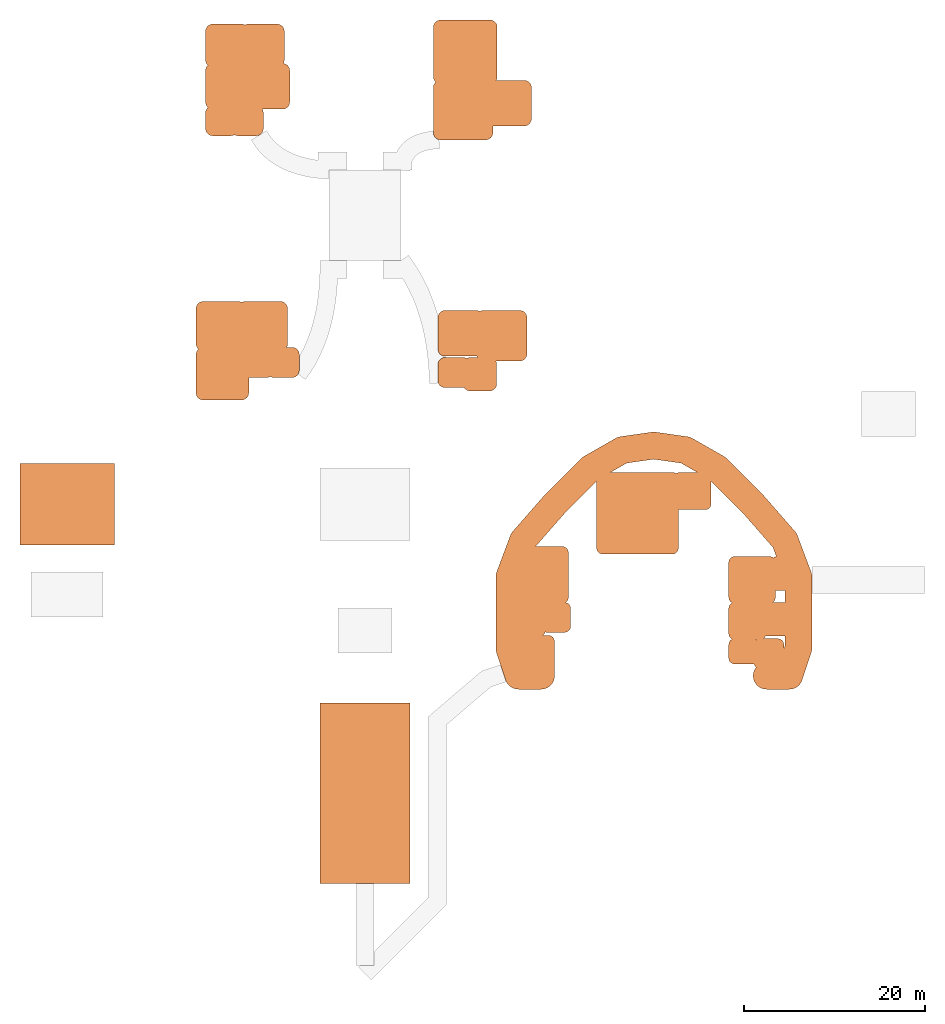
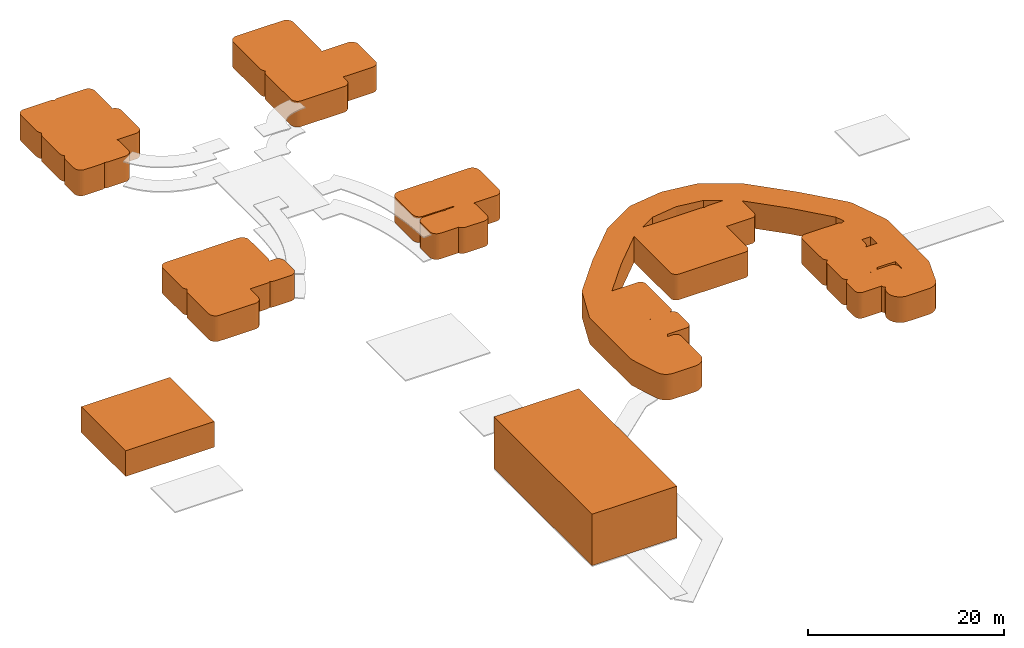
# One storey, part 2 of 2: 7 proxies.
"""IFC2X3 building model written with IfcOpenShell, lengths in millimetres."""

from ifc_helpers import new_model, entity, si_unit, converted_unit, direction, frame, frame_2d, origin, place, context, subcontext, project, spatial, polyline, rectangle, outline, extrude, type_object, element, save


model = new_model("IFC2X3")

# Units and contexts
model_context = context("Model", 3, precision=0.01, world=origin(), true_north=direction((0.0, 1.0)))
body_context = subcontext(model_context, "Body", "Model", "MODEL_VIEW")
ifc_project = project(units=[si_unit("LENGTHUNIT", "METRE", prefix="MILLI"), si_unit("AREAUNIT", "SQUARE_METRE"), si_unit("VOLUMEUNIT", "CUBIC_METRE"), converted_unit("PLANEANGLEUNIT", "DEGREE", entity("IfcPlaneAngleMeasure", 0.017453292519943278), si_unit("PLANEANGLEUNIT", "RADIAN"), dimensions=[0, 0, 0, 0, 0, 0, 0])], contexts=[model_context])

# Site, building, storey
site_placement = place(None, origin())
site = spatial("IfcSite", under=ifc_project, at=site_placement, Name="Default", CompositionType="ELEMENT")
building_placement = place(site_placement, origin())
building = spatial("IfcBuilding", under=site, at=building_placement, CompositionType="ELEMENT")
storey_placement = place(building_placement, origin())
storey = spatial("IfcBuildingStorey", under=building, at=storey_placement, Name="Nível 1", CompositionType="ELEMENT", Elevation=0.0)

# Proxies
building_element_proxy_type_1 = type_object("IfcBuildingElementProxyType", Name="MASS-ADMIN_ACOLHIMENTO", PredefinedType="NOTDEFINED")
proxy_1_placement = place(storey_placement, origin())
element("IfcBuildingElementProxy", 1, at=proxy_1_placement, inside=storey, type_object=building_element_proxy_type_1, Name="MASS-ADMIN_ACOLHIMENTO", context=body_context, shape_type="SweptSolid", body=[
    extrude(rectangle(XDim=10000.0, YDim=20000.0, at=frame_2d((0.0, -4.547473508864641e-12), x_axis=(1.0, 0.0))), frame((0.0, -42000.0, 0.0)), (0.0, 0.0, 1.0), 6400.0),
])
building_element_proxy_type_2 = type_object("IfcBuildingElementProxyType", Name="MASS-CHILD_SECTOR", PredefinedType="NOTDEFINED")
proxy_2_placement = place(storey_placement, origin())
element("IfcBuildingElementProxy", 2, at=proxy_2_placement, inside=storey, type_object=building_element_proxy_type_2, Name="MASS-CHILD_SECTOR", context=body_context, shape_type="SweptSolid", body=[
    extrude(rectangle(XDim=9048.469228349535, YDim=10441.620172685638, at=frame_2d((9.094947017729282e-13, 0.0), x_axis=(1.0, 0.0))), frame((-33000.0, -10000.0, 0.0), z_axis=(0.0, 0.0, 1.0), x_axis=(0.0, 1.0, 0.0)), (0.0, 0.0, 1.0), 3200.0),
])
building_element_proxy_type_3 = type_object("IfcBuildingElementProxyType", Name="MASS-RES_PAV_A", PredefinedType="NOTDEFINED")
proxy_3_placement = place(storey_placement, origin())
element("IfcBuildingElementProxy", 3, at=proxy_3_placement, inside=storey, type_object=building_element_proxy_type_3, Name="MASS-RES_PAV_A", context=body_context, shape_type="SweptSolid", body=[
    extrude(outline(polyline([(3269.8540083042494, -4179.506292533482), (5019.85400830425, -4179.506292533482), (5175.92626591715, -4164.134516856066), (5326.000754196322, -4118.60991854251), (5464.310194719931, -4044.681982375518), (5585.539433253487, -3945.1917174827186), (5685.029698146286, -3823.9624789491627), (5758.9576343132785, -3685.653038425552), (5804.482232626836, -3535.5785501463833), (5819.85400830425, -3379.506292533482), (5819.85400830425, -1379.5062925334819), (5804.482232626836, -1223.4340349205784), (5758.9576343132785, -1073.3595466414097), (5708.792024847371, -979.5062925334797), (5758.9576343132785, -885.6530384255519), (5804.482232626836, -735.5785501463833), (5819.85400830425, -579.5062925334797), (5819.85400830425, 1420.4937074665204), (5804.482232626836, 1576.5659650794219), (5758.9576343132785, 1726.6404533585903), (5685.029698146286, 1864.9498938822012), (5585.539433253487, 1986.179132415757), (5464.310194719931, 2085.6693973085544), (5326.000754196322, 2159.5973334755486), (5175.92626591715, 2205.1219317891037), (5019.85400830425, 2220.4937074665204), (3269.8540083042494, 2220.4937074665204), (3113.781750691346, 2205.1219317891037), (2963.7072624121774, 2159.5973334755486), (2869.8540083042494, 2109.431724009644), (2869.8540083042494, 4348.696937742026), (2854.482232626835, 4504.76919535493), (2808.957634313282, 4654.843683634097), (2735.0296981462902, 4793.153124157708), (2635.5394332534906, 4914.382362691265), (2514.31019471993, 5013.872627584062), (2376.000754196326, 5087.800563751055), (2225.9262659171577, 5133.325162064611), (2069.854008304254, 5148.696937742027), (-1394.2476068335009, 5148.696937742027), (-1550.3198644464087, 5133.325162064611), (-1700.394352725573, 5087.800563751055), (-1838.703793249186, 5013.872627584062), (-1959.9330317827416, 4914.382362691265), (-2059.423296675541, 4793.153124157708), (-2133.351232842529, 4654.843683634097), (-2178.8758311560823, 4504.76919535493), (-2186.2673815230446, 4429.721525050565), (-2288.100860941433, 4484.152653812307), (-2438.175349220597, 4529.677252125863), (-2594.2476068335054, 4545.0490278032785), (-5756.525267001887, 4545.0490278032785), (-5912.597524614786, 4529.677252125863), (-6062.672012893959, 4484.152653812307), (-6200.981453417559, 4410.224717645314), (-6322.210691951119, 4310.734452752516), (-6421.700956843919, 4189.505214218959), (-6495.628893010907, 4051.1957736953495), (-6541.153491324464, 3901.121285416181), (-6556.525267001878, 3745.049027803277), (-6556.525267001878, 582.7713676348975), (-6541.153491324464, 426.6991100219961), (-6495.628893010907, 276.62462174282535), (-6445.463283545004, 182.7713676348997), (-6495.628893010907, 88.91811352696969), (-6541.153491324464, -61.156374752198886), (-6556.525267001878, -217.22863236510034), (-6556.525267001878, -3379.506292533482), (-6541.153491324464, -3535.5785501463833), (-6495.628893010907, -3685.653038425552), (-6421.700956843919, -3823.9624789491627), (-6322.210691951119, -3945.1917174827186), (-6200.981453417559, -4044.681982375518), (-6062.672012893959, -4118.60991854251), (-5912.597524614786, -4164.134516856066), (-5756.525267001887, -4179.506292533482), (-2594.2476068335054, -4179.506292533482), (-2438.175349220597, -4164.134516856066), (-2288.100860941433, -4118.60991854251), (-2149.7914204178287, -4044.681982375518), (-2028.5621818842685, -3945.1917174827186), (-1994.247606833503, -3903.3792868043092), (-1959.9330317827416, -3945.1917174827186), (-1838.703793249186, -4044.681982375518), (-1700.394352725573, -4118.60991854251), (-1550.3198644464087, -4164.134516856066), (-1394.2476068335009, -4179.506292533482), (2069.854008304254, -4179.506292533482), (2225.9262659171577, -4164.134516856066), (2376.000754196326, -4118.60991854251), (2514.31019471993, -4044.681982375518), (2635.5394332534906, -3945.1917174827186), (2669.8540083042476, -3903.379286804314), (2704.168583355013, -3945.1917174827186), (2825.3978218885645, -4044.681982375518), (2963.7072624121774, -4118.60991854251), (3113.781750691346, -4164.134516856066), (3269.8540083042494, -4179.506292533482)])), frame((-13484.595322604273, 36631.66437065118, 0.0), z_axis=(0.0, 0.0, 1.0), x_axis=(0.0, -1.0, 0.0)), (0.0, 0.0, 1.0), 3200.0),
])
building_element_proxy_type_4 = type_object("IfcBuildingElementProxyType", Name="MASS-RES_PAV_B", PredefinedType="NOTDEFINED")
proxy_4_placement = place(storey_placement, origin())
element("IfcBuildingElementProxy", 4, at=proxy_4_placement, inside=storey, type_object=building_element_proxy_type_4, Name="MASS-RES_PAV_B", context=body_context, shape_type="SweptSolid", body=[
    extrude(outline(polyline([(362.43847956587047, -5773.845496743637), (4605.079166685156, -5773.845496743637), (4761.151424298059, -5758.473721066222), (4911.225912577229, -5712.949122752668), (5049.535353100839, -5639.021186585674), (5170.7645916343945, -5539.530921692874), (5270.254856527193, -5418.301683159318), (5344.182792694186, -5279.99224263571), (5389.7073910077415, -5129.917754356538), (5405.079166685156, -4973.845496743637), (5405.079166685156, -731.204809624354), (5389.7073910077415, -575.1325520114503), (5344.182792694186, -425.0580637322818), (5270.254856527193, -286.74862320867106), (5170.764591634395, -165.51938467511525), (5049.535353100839, -66.02911978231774), (4911.225912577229, 7.89881638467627), (4761.151424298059, 53.423414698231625), (4605.079166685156, 68.7951903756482), (2912.4384795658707, 68.7951903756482), (2912.4384795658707, 2068.795190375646), (2897.0667038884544, 2224.86744798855), (2851.5421055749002, 2374.9419362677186), (2801.3764961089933, 2468.7951903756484), (2851.5421055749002, 2562.648444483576), (2897.0667038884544, 2712.7229327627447), (2912.4384795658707, 2868.7951903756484), (2912.4384795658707, 4868.7951903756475), (2897.0667038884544, 5024.86744798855), (2851.5421055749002, 5174.94193626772), (2777.6141694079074, 5313.25137679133), (2678.1239045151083, 5434.480615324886), (2556.8946659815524, 5533.970880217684), (2418.585225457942, 5607.898816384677), (2268.510737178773, 5653.423414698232), (2112.4384795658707, 5668.7951903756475), (362.43847956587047, 5668.7951903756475), (206.36622195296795, 5653.423414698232), (56.29173367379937, 5607.898816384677), (-82.01770684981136, 5533.970880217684), (-203.2469453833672, 5434.480615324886), (-302.7372102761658, 5313.25137679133), (-376.66514644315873, 5174.94193626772), (-422.18974475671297, 5024.86744798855), (-437.5615204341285, 4868.7951903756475), (-437.5615204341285, 4261.059212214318), (-531.4147745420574, 4311.224821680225), (-681.489262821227, 4356.749419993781), (-837.5615204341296, 4372.121195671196), (-4710.544866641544, 4372.121195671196), (-4866.617124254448, 4356.749419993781), (-5016.6916125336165, 4311.224821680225), (-5155.001053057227, 4237.296885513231), (-5276.230291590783, 4137.806620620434), (-5375.72055648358, 4016.5773820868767), (-5449.648492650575, 3878.267941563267), (-5495.17309096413, 3728.1934532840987), (-5510.544866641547, 3572.121195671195), (-5510.544866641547, -300.86215053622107), (-5495.17309096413, -456.93440814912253), (-5449.648492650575, -607.0088964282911), (-5399.482883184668, -700.8621505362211), (-5449.648492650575, -794.715404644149), (-5495.17309096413, -944.7898929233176), (-5510.544866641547, -1100.8621505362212), (-5510.544866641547, -4973.845496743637), (-5495.17309096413, -5129.917754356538), (-5449.648492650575, -5279.99224263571), (-5375.72055648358, -5418.301683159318), (-5276.230291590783, -5539.530921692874), (-5155.001053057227, -5639.021186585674), (-5016.6916125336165, -5712.949122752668), (-4866.617124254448, -5758.473721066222), (-4710.544866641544, -5773.845496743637), (-837.5615204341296, -5773.845496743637), (-681.489262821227, -5758.473721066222), (-531.4147745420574, -5712.949122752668), (-393.10533401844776, -5639.021186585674), (-271.87609548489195, -5539.530921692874), (-237.56152043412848, -5497.718491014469), (-203.2469453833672, -5539.530921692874), (-82.01770684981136, -5639.021186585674), (56.29173367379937, -5712.949122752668), (206.36622195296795, -5758.473721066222), (362.43847956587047, -5773.845496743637)])), frame((-12947.474846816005, 6947.267150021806, 0.0), z_axis=(0.0, 0.0, 1.0), x_axis=(0.0, -1.0, 0.0)), (0.0, 0.0, 1.0), 3200.0),
])
building_element_proxy_type_5 = type_object("IfcBuildingElementProxyType", Name="MASS-RES_PAV_C", PredefinedType="NOTDEFINED")
proxy_5_placement = place(storey_placement, origin())
element("IfcBuildingElementProxy", 5, at=proxy_5_placement, inside=storey, type_object=building_element_proxy_type_5, Name="MASS-RES_PAV_C", context=body_context, shape_type="SweptSolid", body=[
    extrude(outline(polyline([(1187.2050043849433, -3896.6532373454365), (2937.2050043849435, -3896.6532373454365), (3093.277261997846, -3881.2814616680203), (3243.351750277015, -3835.7568633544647), (3381.6611908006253, -3761.828927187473), (3502.8904293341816, -3662.338662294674), (3602.3806942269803, -3541.1094237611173), (3676.3086303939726, -3402.7999832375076), (3721.8332287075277, -3252.7254949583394), (3737.2050043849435, -3096.6532373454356), (3737.2050043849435, -1096.6532373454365), (3725.3790925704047, -976.5827397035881), (3752.981534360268, -961.8289271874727), (3874.210772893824, -862.338662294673), (3973.7010377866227, -741.1094237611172), (4047.6289739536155, -602.7999832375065), (4093.1535722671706, -452.7254949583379), (4108.5253479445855, -296.65323734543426), (4108.5253479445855, 1824.6671062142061), (4093.1535722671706, 1980.7393638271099), (4047.628973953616, 2130.8138521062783), (3973.7010377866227, 2269.123292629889), (3874.2107728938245, 2390.352531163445), (3752.981534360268, 2489.8427960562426), (3614.672093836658, 2563.7707322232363), (3464.597605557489, 2609.295330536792), (3308.5253479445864, 2624.6671062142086), (1187.2050043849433, 2624.6671062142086), (1031.1327467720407, 2609.295330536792), (881.0582584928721, 2563.7707322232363), (787.2050043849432, 2513.60512275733), (787.2050043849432, 5167.448377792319), (771.8332287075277, 5323.52063540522), (726.3086303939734, 5473.59512368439), (652.3806942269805, 5611.904564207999), (552.8904293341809, 5733.133802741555), (431.66119080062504, 5832.624067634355), (293.35175027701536, 5906.552003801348), (143.27726199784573, 5952.076602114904), (-12.794995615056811, 5967.448377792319), (-4012.794995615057, 5967.448377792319), (-4168.867253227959, 5952.076602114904), (-4318.9417415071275, 5906.552003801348), (-4457.251182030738, 5832.624067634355), (-4578.480420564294, 5733.133802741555), (-4677.970685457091, 5611.904564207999), (-4751.8986216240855, 5473.59512368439), (-4797.42321993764, 5323.52063540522), (-4812.794995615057, 5167.448377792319), (-4812.794995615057, 1167.448377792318), (-4797.42321993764, 1011.3761201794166), (-4751.8986216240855, 861.3016319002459), (-4701.733012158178, 767.4483777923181), (-4751.8986216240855, 673.5951236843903), (-4797.42321993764, 523.5206354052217), (-4812.794995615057, 367.44837779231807), (-4812.794995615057, -3096.6532373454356), (-4797.42321993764, -3252.725494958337), (-4751.8986216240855, -3402.7999832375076), (-4677.970685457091, -3541.1094237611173), (-4578.480420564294, -3662.338662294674), (-4457.251182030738, -3761.8289271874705), (-4318.9417415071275, -3835.7568633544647), (-4168.867253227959, -3881.2814616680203), (-4012.794995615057, -3896.6532373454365), (-548.6933804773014, -3896.6532373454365), (-392.6211228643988, -3881.2814616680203), (-242.54663458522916, -3835.7568633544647), (-104.2371940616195, -3761.828927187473), (16.992044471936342, -3662.338662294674), (116.48230936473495, -3541.1094237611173), (190.41024553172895, -3402.7999832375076), (235.9348438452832, -3252.7254949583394), (251.30661952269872, -3096.6532373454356), (251.30661952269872, 367.44837779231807), (246.70258907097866, 414.19388343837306), (293.35175027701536, 428.34475178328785), (387.2050043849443, 478.5103612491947), (387.2050043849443, -296.65323734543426), (402.5767800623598, -452.72549495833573), (448.10137837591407, -602.7999832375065), (498.26698784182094, -696.6532373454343), (448.10137837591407, -790.5064914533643), (402.5767800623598, -940.5809797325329), (387.2050043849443, -1096.6532373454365), (387.2050043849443, -3096.6532373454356), (402.5767800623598, -3252.725494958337), (448.10137837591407, -3402.7999832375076), (522.029314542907, -3541.1094237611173), (621.5195794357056, -3662.338662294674), (742.7488179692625, -3761.8289271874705), (881.0582584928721, -3835.7568633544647), (1031.1327467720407, -3881.2814616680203), (1187.2050043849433, -3896.6532373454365)])), frame((11964.602429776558, 6647.865176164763, 0.0), z_axis=(0.0, 0.0, 1.0), x_axis=(0.0, -1.0, 0.0)), (0.0, 0.0, 1.0), 3200.0),
])
building_element_proxy_type_6 = type_object("IfcBuildingElementProxyType", Name="MASS-RES_PAV_D_COMMUNAL", PredefinedType="NOTDEFINED")
proxy_6_placement = place(storey_placement, origin())
element("IfcBuildingElementProxy", 6, at=proxy_6_placement, inside=storey, type_object=building_element_proxy_type_6, Name="MASS-RES_PAV_D_COMMUNAL", context=body_context, shape_type="SweptSolid", body=[
    extrude(outline(polyline([(-6601.699500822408, -4986.570125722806), (-1124.4739257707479, -4986.570125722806), (-968.40166815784, -4971.198350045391), (-818.3271798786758, -4925.673751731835), (-680.0177393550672, -4851.745815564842), (-558.7885008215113, -4752.255550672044), (-524.4739257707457, -4710.443119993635), (-490.1593507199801, -4752.255550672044), (-368.93011218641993, -4851.745815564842), (-230.62067166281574, -4925.673751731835), (-80.54618338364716, -4971.198350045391), (75.52607422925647, -4986.570125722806), (5075.526074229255, -4986.570125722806), (5231.598331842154, -4971.198350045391), (5381.672820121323, -4925.673751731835), (5519.982260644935, -4851.745815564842), (5641.211499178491, -4752.255550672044), (5740.701764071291, -4631.026312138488), (5814.629700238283, -4492.716871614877), (5860.154298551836, -4342.642383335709), (5875.526074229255, -4186.570125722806), (5875.526074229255, 813.4298742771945), (5860.154298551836, 969.5021318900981), (5814.629700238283, 1119.5766201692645), (5740.701764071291, 1257.8860606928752), (5641.211499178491, 1379.1152992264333), (5519.982260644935, 1478.6055641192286), (5381.672820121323, 1552.5335002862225), (5231.598331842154, 1598.0580985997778), (5075.526074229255, 1613.4298742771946), (4339.6276893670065, 1613.4298742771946), (4339.6276893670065, 5077.531489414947), (4324.2559136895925, 5233.603747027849), (4278.731315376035, 5383.678235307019), (4204.803379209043, 5521.98767583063), (4105.313114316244, 5643.216914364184), (3984.083875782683, 5742.707179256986), (3845.774435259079, 5816.635115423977), (3695.6999469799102, 5862.159713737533), (3539.627689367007, 5877.53148941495), (75.52607422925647, 5877.53148941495), (-80.54618338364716, 5862.159713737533), (-230.62067166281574, 5816.635115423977), (-368.93011218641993, 5742.707179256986), (-490.1593507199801, 5643.216914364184), (-589.6496156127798, 5521.98767583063), (-663.5775517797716, 5383.678235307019), (-709.1021500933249, 5233.603747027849), (-724.4739257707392, 5077.531489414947), (-724.4739257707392, 1979.5934658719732), (-818.3271798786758, 2029.7590753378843), (-968.40166815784, 2075.283673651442), (-1124.4739257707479, 2090.6554493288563), (-6601.699500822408, 2090.6554493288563), (-6757.771758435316, 2075.283673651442), (-6907.84624671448, 2029.7590753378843), (-7046.155687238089, 1955.8311391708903), (-7167.384925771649, 1856.340874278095), (-7266.875190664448, 1735.111635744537), (-7340.803126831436, 1596.8021952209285), (-7386.327725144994, 1446.7277069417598), (-7401.699500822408, 1290.6554493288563), (-7401.699500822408, -4186.570125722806), (-7386.327725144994, -4342.642383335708), (-7340.803126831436, -4492.716871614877), (-7266.875190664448, -4631.026312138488), (-7167.384925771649, -4752.255550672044), (-7046.155687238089, -4851.745815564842), (-6907.84624671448, -4925.673751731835), (-6757.771758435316, -4971.198350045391), (-6601.699500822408, -4986.570125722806)])), frame((12554.519318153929, 36236.91328670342, 0.0), z_axis=(0.0, 0.0, 1.0), x_axis=(0.0, -1.0, 0.0)), (0.0, 0.0, 1.0), 3200.0000000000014),
])
building_element_proxy_type_7 = type_object("IfcBuildingElementProxyType", Name="MASS-SERVICE_CAPACITATION", PredefinedType="NOTDEFINED")
proxy_7_placement = place(storey_placement, origin())
element("IfcBuildingElementProxy", 7, at=proxy_7_placement, inside=storey, type_object=building_element_proxy_type_7, Name="MASS-SERVICE_CAPACITATION", context=body_context, shape_type="SweptSolid", body=[
    extrude(outline(polyline([(10567.094132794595, 6046.6422046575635), (10440.285423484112, 6034.152636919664), (10318.349901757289, 5997.163900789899), (10205.973481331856, 5937.097452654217), (10107.47472502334, 5856.261612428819), (10026.63888479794, 5757.762856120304), (9966.57243666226, 5645.3864356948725), (9929.583700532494, 5523.450913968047), (9917.094132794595, 5396.6422046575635), (9917.094132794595, 396.6422046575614), (9929.583700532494, 269.8334953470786), (9966.57243666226, 147.8979736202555), (10026.63888479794, 35.521553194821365), (10107.47472502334, -62.97720311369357), (10205.973481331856, -143.81304333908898), (10238.421118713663, -161.15666685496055), (10190.79568070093, -165.84736308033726), (10068.860158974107, -202.83609921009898), (9956.483738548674, -262.9025473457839), (9857.984982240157, -343.7383875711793), (9777.149142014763, -442.23714387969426), (9717.082693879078, -554.6135643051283), (9680.093957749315, -676.5490860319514), (9667.604390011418, -803.3577953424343), (9667.604390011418, -2803.3577953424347), (9680.093957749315, -2930.1665046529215), (9717.082693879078, -3052.1020263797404), (9777.149142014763, -3164.478446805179), (9857.984982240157, -3262.9772031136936), (9956.483738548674, -3343.8130433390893), (10068.860158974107, -3403.8794914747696), (10190.79568070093, -3440.8682276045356), (10317.604390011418, -3453.3577953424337), (12317.604390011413, -3453.3577953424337), (12444.4130993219, -3440.8682276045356), (12494.091080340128, -3425.79857681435), (12517.082693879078, -3501.5917691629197), (12577.149142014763, -3613.9681895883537), (12657.98498224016, -3712.466945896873), (12756.483738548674, -3793.3027861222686), (12774.3407135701, -3802.8475381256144), (12102.992517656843, -3802.8475381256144), (11976.183808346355, -3815.3371058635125), (11854.248286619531, -3852.3258419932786), (11741.871866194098, -3912.392290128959), (11643.373109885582, -3993.2281303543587), (11562.537269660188, -4091.7268866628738), (11502.470821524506, -4204.103307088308), (11465.48208539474, -4326.038828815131), (11452.992517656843, -4452.847538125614), (11452.992517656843, -7916.949153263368), (11463.239595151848, -8020.989477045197), (11449.572171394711, -8113.127763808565), (11442.349261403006, -8260.153474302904), (11449.572171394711, -8407.179184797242), (11471.17134079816, -8552.788957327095), (11506.938757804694, -8695.580490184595), (11556.52996263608, -8834.178622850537), (11619.467364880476, -8967.248579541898), (11695.144842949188, -9093.508823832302), (11782.833581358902, -9211.743400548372), (11881.689089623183, -9320.813646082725), (11990.75933515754, -9419.669154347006), (12108.993911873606, -9507.35789275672), (12235.25415616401, -9583.035370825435), (12368.324112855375, -9645.972773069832), (12506.922245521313, -9695.563977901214), (12649.713778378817, -9731.331394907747), (12795.323550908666, -9752.9305643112), (12942.349261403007, -9760.153474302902), (15442.349261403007, -9760.153474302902), (15586.2482892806, -9753.235210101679), (15728.819941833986, -9732.54423400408), (15868.749087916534, -9698.271406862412), (16004.74497179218, -9650.732873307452), (16135.55311952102, -9590.367145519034), (16259.966910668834, -9517.731058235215), (16376.838708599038, -9433.49463231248), (16485.0904466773, -9338.434894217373), (16583.723572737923, -9233.428708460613), (16671.828260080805, -9119.444689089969), (16748.59180003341, -8997.534264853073), (16813.306098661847, -8868.82198044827), (16865.374208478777, -8734.495123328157), (17865.374208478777, -5734.495123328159), (17907.973562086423, -5579.44238617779), (17933.73057599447, -5420.72051477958), (17942.349261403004, -5260.153474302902), (17942.349261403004, 2739.846525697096), (17936.319724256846, 2874.2052102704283), (17918.279586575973, 3007.4837339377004), (17888.373879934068, 3138.610619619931), (17846.843027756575, 3266.531688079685), (16346.843027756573, 7266.531688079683), (16293.81131537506, 7390.653960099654), (16229.836543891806, 7509.506513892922), (16155.436729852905, 7622.126976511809), (16071.214303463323, 7727.603437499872), (12571.214303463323, 11727.603437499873), (12503.009433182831, 11800.506697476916), (8503.009433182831, 15800.506697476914), (8404.82414631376, 15890.342981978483), (8299.062724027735, 15971.123116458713), (8186.557668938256, 16042.211238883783), (4686.55766893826, 18042.211238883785), (4560.603370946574, 18106.507367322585), (4429.153899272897, 18158.65632427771), (4293.377604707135, 18198.19459875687), (4154.481295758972, 18224.770766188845), (654.4812957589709, 18724.770766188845), (513.2713373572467, 18738.16894064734), (371.4271854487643, 18738.16894064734), (230.21722704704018, 18724.770766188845), (-3269.7827729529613, 18224.770766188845), (-3408.679081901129, 18198.19459875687), (-3544.4553764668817, 18158.65632427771), (-3675.9048481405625, 18106.50736732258), (-3801.859146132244, 18042.211238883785), (-7301.859146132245, 16042.211238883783), (-7414.364201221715, 15971.123116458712), (-7520.125623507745, 15890.342981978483), (-7618.310910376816, 15800.506697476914), (-11618.310910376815, 11800.506697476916), (-11686.515780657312, 11727.603437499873), (-15186.515780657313, 7727.603437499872), (-15270.738207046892, 7622.126976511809), (-15345.1380210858, 7509.506513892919), (-15409.112792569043, 7390.653960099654), (-15462.144504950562, 7266.531688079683), (-16962.14450495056, 3266.531688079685), (-17003.67535712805, 3138.610619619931), (-17033.581063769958, 3007.4837339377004), (-17051.621201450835, 2874.2052102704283), (-17057.650738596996, 2739.846525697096), (-17057.650738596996, -5260.153474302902), (-17049.032053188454, -5420.72051477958), (-17023.27503928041, -5579.44238617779), (-16980.675685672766, -5734.495123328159), (-15980.67568567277, -8734.495123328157), (-15928.607575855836, -8868.82198044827), (-15863.893277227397, -8997.534264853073), (-15787.129737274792, -9119.444689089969), (-15699.025049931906, -9233.428708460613), (-15600.391923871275, -9338.434894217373), (-15492.140185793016, -9433.49463231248), (-15375.268387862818, -9517.731058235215), (-15250.854596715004, -9590.367145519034), (-15120.046448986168, -9650.732873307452), (-14984.050565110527, -9698.271406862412), (-14844.121419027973, -9732.54423400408), (-14701.549766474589, -9753.235210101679), (-14557.65073859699, -9760.153474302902), (-12057.650738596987, -9760.153474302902), (-11910.625028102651, -9752.9305643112), (-11765.015255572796, -9731.331394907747), (-11622.223722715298, -9695.563977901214), (-11483.62559004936, -9645.972773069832), (-11350.555633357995, -9583.035370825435), (-11224.295389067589, -9507.35789275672), (-11106.060812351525, -9419.669154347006), (-10996.990566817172, -9320.813646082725), (-10898.135058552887, -9211.743400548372), (-10810.446320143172, -9093.508823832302), (-10734.768842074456, -8967.248579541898), (-10671.83143983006, -8834.178622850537), (-10622.240234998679, -8695.580490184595), (-10586.472817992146, -8552.788957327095), (-10564.873648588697, -8407.179184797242), (-10557.65073859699, -8260.153474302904), (-10564.873648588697, -8113.127763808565), (-10586.472817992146, -7967.51799127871), (-10622.240234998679, -7824.726458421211), (-10671.83143983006, -7686.128325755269), (-10734.768842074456, -7553.058369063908), (-10810.446320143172, -7426.798124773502), (-10892.484942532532, -7316.1818476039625), (-10836.79478633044, -7270.478117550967), (-10755.95894610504, -7171.979361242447), (-10695.892497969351, -7059.602940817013), (-10658.892099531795, -6937.549009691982), (-10623.222903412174, -6948.36914204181), (-10496.414194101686, -6960.858709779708), (-8496.414194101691, -6960.858709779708), (-8369.605484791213, -6948.36914204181), (-8247.669963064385, -6911.380405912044), (-8135.293542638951, -6851.313957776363), (-8036.794786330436, -6770.478117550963), (-7955.958946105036, -6671.979361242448), (-7895.8924979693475, -6559.602940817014), (-7858.903761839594, -6437.667419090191), (-7846.4141941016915, -6310.858709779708), (-7846.4141941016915, -4810.858709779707), (-7858.903761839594, -4684.050000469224), (-7895.8924979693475, -4562.114478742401), (-7955.958946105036, -4449.738058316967), (-8036.794786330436, -4351.239302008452), (-8135.293542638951, -4270.403461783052), (-8246.693938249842, -4210.858709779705), (-8135.293542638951, -4151.313957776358), (-8036.794786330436, -4070.478117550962), (-7955.958946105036, -3971.9793612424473), (-7895.8924979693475, -3859.602940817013), (-7858.903761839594, -3737.66741909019), (-7846.4141941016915, -3610.858709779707), (-7846.4141941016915, -782.4315850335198), (-7858.903761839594, -655.6228757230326), (-7895.8924979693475, -533.6873539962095), (-7955.958946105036, -421.3109335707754), (-8036.794786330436, -322.81217726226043), (-8135.293542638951, -241.97633703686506), (-8246.693938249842, -182.4315850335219), (-8135.293542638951, -122.88683303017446), (-8036.794786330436, -42.050992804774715), (-7955.958946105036, 56.44776350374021), (-7895.8924979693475, 168.82418392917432), (-7858.903761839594, 290.75970565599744), (-7846.4141941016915, 417.5684149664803), (-7846.4141941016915, 4290.551761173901), (-7858.903761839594, 4417.360470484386), (-7895.8924979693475, 4539.295992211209), (-7955.958946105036, 4651.672412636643), (-8036.794786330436, 4750.171168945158), (-8135.293542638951, 4831.007009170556), (-8247.669963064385, 4891.073457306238), (-8369.605484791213, 4928.062193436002), (-8496.414194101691, 4940.551761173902), (-12369.39754030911, 4940.551761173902), (-12496.206249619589, 4928.062193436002), (-12618.141771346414, 4891.073457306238), (-12730.51819177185, 4831.007009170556), (-12769.397540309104, 4799.099552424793), (-12808.276888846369, 4831.007009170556), (-12920.653309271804, 4891.073457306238), (-13042.588830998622, 4928.062193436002), (-13131.77512955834, 4936.846277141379), (-12749.01376458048, 5957.543250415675), (-9461.674424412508, 9714.502496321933), (-5894.847647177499, 13281.329273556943), (-5894.847647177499, 10784.402747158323), (-5882.358079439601, 10657.59403784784), (-5845.369343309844, 10535.658516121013), (-5785.302895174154, 10423.28209569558), (-5704.467054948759, 10324.783339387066), (-5605.968298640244, 10243.947499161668), (-5493.59187821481, 10183.881051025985), (-5371.6563564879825, 10146.892314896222), (-5244.847647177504, 10134.402747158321), (-2416.4205224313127, 10134.402747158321), (-2289.6118131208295, 10146.892314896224), (-2266.420522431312, 10153.927316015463), (-2266.420522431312, 5866.86317948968), (-2253.9309546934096, 5740.054470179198), (-2216.942218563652, 5618.11894845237), (-2156.8757704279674, 5505.742528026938), (-2076.0399302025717, 5407.243771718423), (-1977.5411738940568, 5326.407931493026), (-1865.1647534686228, 5266.341483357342), (-1743.2292317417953, 5229.352747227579), (-1616.4205224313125, 5216.863179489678), (6129.54616998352, 5216.863179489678), (6256.354879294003, 5229.352747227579), (6378.290401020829, 5266.341483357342), (6490.66682144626, 5326.407931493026), (6589.165577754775, 5407.243771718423), (6670.00141798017, 5505.742528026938), (6730.0678661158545, 5618.11894845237), (6767.056602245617, 5740.054470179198), (6779.546169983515, 5866.86317948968), (6779.546169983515, 13281.329273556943), (10346.372947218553, 9714.502496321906), (13555.750702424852, 6046.6422046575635), (10567.094132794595, 6046.6422046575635)]), holes=[polyline([(12717.604390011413, -294.8100040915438), (12678.725041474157, -262.9025473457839), (12660.868066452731, -253.35779534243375), (12774.3407135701, -253.35779534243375), (12756.483738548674, -262.9025473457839), (12717.604390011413, -294.8100040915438)]), polyline([(-13169.39754030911, 1191.0620183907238), (-13042.588830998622, 1203.551586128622), (-13019.397540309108, 1210.5865872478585), (-13019.397540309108, 417.5684149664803), (-13006.907972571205, 290.75970565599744), (-12969.919236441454, 168.82418392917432), (-12909.852788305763, 56.44776350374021), (-12829.016948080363, -42.050992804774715), (-12730.51819177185, -122.88683303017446), (-12712.661216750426, -132.4315850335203), (-14057.650738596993, -132.4315850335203), (-14057.650738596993, 1191.0620183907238), (-13169.39754030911, 1191.0620183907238)]), polyline([(-12124.841318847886, -3881.92132781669), (-11998.03260953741, -3869.4317600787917), (-11928.756232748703, -3848.417000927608), (-11925.363014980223, -3859.602940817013), (-11865.296566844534, -3971.9793612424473), (-11784.460726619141, -4070.478117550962), (-11685.961970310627, -4151.313957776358), (-11668.104995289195, -4160.858709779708), (-13296.414194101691, -4160.858709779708), (-13423.22290341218, -4173.348277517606), (-13545.158425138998, -4210.337013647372), (-13657.53484556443, -4270.403461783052), (-13756.033601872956, -4351.239302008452), (-13836.869442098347, -4449.738058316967), (-13896.935890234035, -4562.114478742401), (-13933.924626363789, -4684.050000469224), (-13946.414194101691, -4810.858709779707), (-13946.414194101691, -5350.44661753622), (-14057.650738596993, -5016.736984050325), (-14057.650738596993, -3881.92132781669), (-12124.841318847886, -3881.92132781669)]), polyline([(-10953.150517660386, -4260.858709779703), (-10839.677870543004, -4260.858709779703), (-10857.534845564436, -4270.403461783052), (-10896.4141941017, -4302.310918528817), (-10935.293542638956, -4270.403461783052), (-10953.150517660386, -4260.858709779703)]), polyline([(-11763.720667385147, -241.97633703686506), (-11781.57764240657, -232.4315850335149), (-11668.104995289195, -232.4315850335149), (-11685.961970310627, -241.97633703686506), (-11724.841318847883, -273.883793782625), (-11763.720667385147, -241.97633703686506)]), polyline([(442.3492614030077, 15724.61770886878), (3446.7542931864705, 15295.41699004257), (5253.7817499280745, 14262.829871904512), (-1616.4205224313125, 14262.829871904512), (-1743.2292317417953, 14250.340304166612), (-1865.1647534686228, 14213.351568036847), (-1977.5411738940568, 14153.285119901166), (-2016.4205224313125, 14121.377663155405), (-2055.299870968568, 14153.285119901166), (-2167.6762913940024, 14213.351568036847), (-2289.6118131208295, 14250.340304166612), (-2416.4205224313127, 14262.829871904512), (-4369.083227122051, 14262.829871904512), (-2562.0557703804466, 15295.41699004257), (442.3492614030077, 15724.61770886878)])]), frame((32442.349261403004, -20739.846525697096, 0.0), z_axis=(0.0, 0.0, -1.0), x_axis=(-1.0, 0.0, 0.0)), (0.0, 0.0, -1.0), 3200.0),
])

save(model, "model.ifc")
